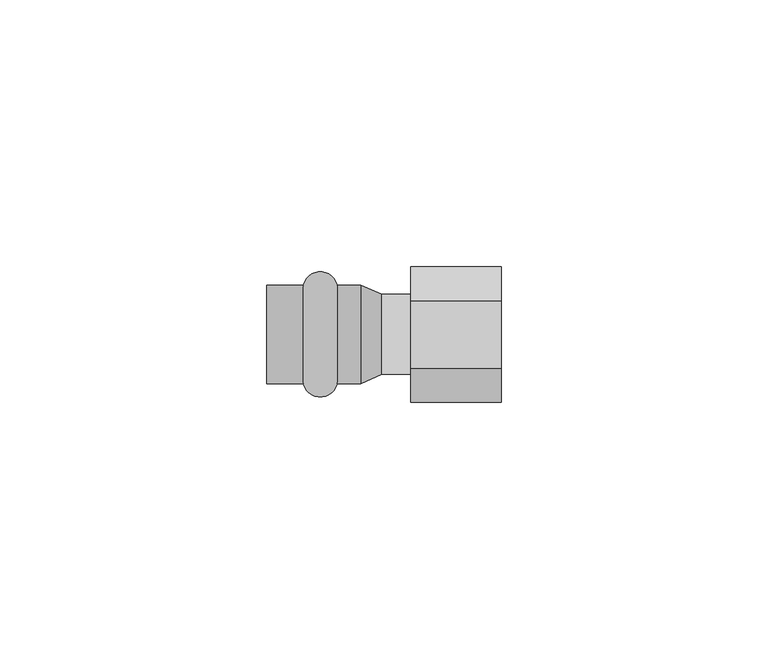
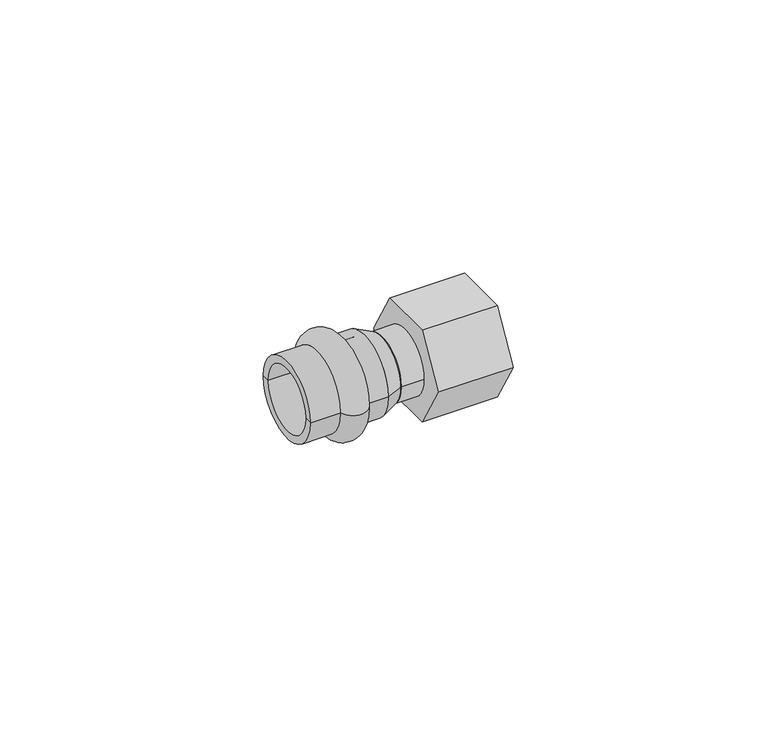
"""IFC4 building model written with IfcOpenShell, lengths in millimetres: pipe fitting geometry, VALTEC_VTi.908.I_Соединитель с накидной гайкой_Нержавеющая сталь : VTi.908.I."""

from ifc_helpers import new_model, si_unit, point, frame, origin, origin_2d, place, context, project, spatial, polyline, circle_curve, ellipse_curve, trimmed, segment, composite_curve, outline, extrude, source, transform, mapped, element, save
from ifc_brep_helpers import plane_surface, cylinder_surface, revolved_surface, advanced_brep


def pipe_fitting_578c5cc1(model_context):
    return source(origin(), model_context, "Body", "SolidModel", [
        advanced_brep(
        [(-28.6122777, -9.25, 0.0), (-28.6122777, 9.25, 0.0), (-22.2877223, 9.25, 0.0), (-22.2877223, -9.25, 0.0), (-35.5, -9.25, 0.0), (-35.5, 9.25, 0.0), (-35.5, -7.5, 0.0), (-35.5, 7.5, 0.0), (-17.9, -7.5, 0.0), (-17.9, 7.5, 0.0), (-17.9, -9.25, 0.0), (-17.9, 9.25, 0.0)],
        [
            (0, 1, circle_curve(frame((-28.6122777, 0.0, 0.0), z_axis=(1.0, 0.0, 0.0), x_axis=(0.0, 1.0, 0.0)), 9.25)),
            (1, 2, circle_curve(frame((-25.45, 8.5, 0.0), z_axis=(0.0, 0.0, -1.0), x_axis=(1.0, 0.0, 0.0)), 3.25)),
            (2, 3, circle_curve(frame((-22.2877223, 0.0, 0.0), z_axis=(-1.0, 0.0, 0.0), x_axis=(0.0, 1.0, 0.0)), 9.25)),
            (3, 0, circle_curve(frame((-25.45, -8.5, 0.0), z_axis=(0.0, 0.0, -1.0), x_axis=(1.0, 0.0, 0.0)), 3.25)),
            (1, 0, circle_curve(frame((-28.6122777, 0.0, 0.0), z_axis=(1.0, 0.0, 0.0), x_axis=(0.0, 1.0, 0.0)), 9.25)),
            (3, 2, circle_curve(frame((-22.2877223, 0.0, 0.0), z_axis=(-1.0, 0.0, 0.0), x_axis=(0.0, 1.0, 0.0)), 9.25)),
            (4, 5, circle_curve(frame((-35.5, 0.0, 0.0), z_axis=(1.0, 0.0, 0.0), x_axis=(0.0, 1.0, 0.0)), 9.25)),
            (5, 1),
            (0, 4),
            (5, 4, circle_curve(frame((-35.5, 0.0, 0.0), z_axis=(1.0, 0.0, 0.0), x_axis=(0.0, 1.0, 0.0)), 9.25)),
            (6, 7, circle_curve(frame((-35.5, 0.0, 0.0), z_axis=(1.0, 0.0, 0.0), x_axis=(0.0, 1.0, 0.0)), 7.5)),
            (7, 5),
            (4, 6),
            (7, 6, circle_curve(frame((-35.5, 0.0, 0.0), z_axis=(1.0, 0.0, 0.0), x_axis=(0.0, 1.0, 0.0)), 7.5)),
            (8, 9, circle_curve(frame((-17.9, 0.0, 0.0), z_axis=(1.0, 0.0, 0.0), x_axis=(0.0, 1.0, 0.0)), 7.5)),
            (9, 7),
            (6, 8),
            (9, 8, circle_curve(frame((-17.9, 0.0, 0.0), z_axis=(1.0, 0.0, 0.0), x_axis=(0.0, 1.0, 0.0)), 7.5)),
            (10, 11, circle_curve(frame((-17.9, 0.0, 0.0), z_axis=(1.0, 0.0, 0.0), x_axis=(0.0, 1.0, 0.0)), 9.25)),
            (11, 9),
            (8, 10),
            (11, 10, circle_curve(frame((-17.9, 0.0, 0.0), z_axis=(1.0, 0.0, 0.0), x_axis=(0.0, 1.0, 0.0)), 9.25)),
            (2, 11),
            (10, 3),
        ],
        [
            revolved_surface(trimmed(ellipse_curve(frame((-25.45, 8.5, 0.0), z_axis=(0.0, 0.0, 1.0), x_axis=(1.0, 0.0, 0.0)), 3.25, 3.25), [point((-22.2877223, 9.25, 0.0))], [point((-28.6122777, 9.25, 0.0))], True, "CARTESIAN"), (-39.0364426, 0.0, 0.0), (-1.0, 0.0, 0.0)),
            cylinder_surface(frame((-39.0364426, 0.0, 0.0), z_axis=(-1.0, 0.0, 0.0), x_axis=(0.0, 1.0, 0.0)), 9.25),
            plane_surface(frame((-35.5, 0.0, 0.0), z_axis=(-1.0, 0.0, 0.0), x_axis=(0.0, 1.0, 0.0))),
            revolved_surface(polyline([(-35.5, 7.5, 0.0), (-17.9, 7.5, 0.0)]), (-39.0364426, 0.0, 0.0), (-1.0, 0.0, 0.0)),
            plane_surface(frame((-17.9, 0.0, 0.0), z_axis=(1.0, 0.0, 0.0), x_axis=(0.0, 1.0, 0.0))),
        ],
        [
            (0, [[1, 2, 3, 4]]),
            (0, [[5, -4, 6, -2]]),
            (1, [[7, 8, -1, 9]]),
            (1, [[10, -9, -5, -8]]),
            (2, [[11, 12, -7, 13]]),
            (2, [[14, -13, -10, -12]]),
            (3, [[15, 16, -11, 17]]),
            (3, [[18, -17, -14, -16]]),
            (4, [[19, 20, -15, 21]]),
            (4, [[22, -21, -18, -20]]),
            (1, [[-3, 23, -19, 24]]),
            (1, [[-6, -24, -22, -23]]),
        ],
    ),
        extrude(outline(polyline([(-12.7017059, 0.0), (-6.350853, 11.0), (6.350853, 11.0), (12.7017059, 0.0), (6.350853, -11.0), (-6.350853, -11.0), (-12.7017059, 0.0)])), frame((-8.5, 0.0, 0.0), z_axis=(1.0, 0.0, 0.0), x_axis=(0.0, 1.0, 0.0)), (0.0, 0.0, 1.0), 17.0),
        extrude(outline(composite_curve([segment(trimmed(circle_curve(origin_2d(), 7.5), [point((-7.5, 0.0))], [point((7.5, 0.0))], False, "CARTESIAN"), True, "CONTINUOUS"), segment(trimmed(circle_curve(origin_2d(), 7.5), [point((7.5, 0.0))], [point((-7.5, 0.0))], False, "CARTESIAN"), True, "CONTINUOUS")], self_intersect=False)), frame((-13.9, 0.0, 0.0), z_axis=(1.0, 0.0, 0.0), x_axis=(0.0, 1.0, 0.0)), (0.0, 0.0, 1.0), 5.4),
        advanced_brep(
        [(-13.9, -7.5, 0.0), (-13.9, 7.5, 0.0), (-17.9, -9.25, 0.0), (-17.9, 9.25, 0.0)],
        [
            (0, 1, circle_curve(frame((-13.9, 0.0, 0.0), z_axis=(1.0, 0.0, 0.0), x_axis=(0.0, -1.0, 0.0)), 7.5)),
            (1, 0, circle_curve(frame((-13.9, 0.0, 0.0), z_axis=(1.0, 0.0, 0.0), x_axis=(0.0, 1.0, 0.0)), 7.5)),
            (2, 3, circle_curve(frame((-17.9, 0.0, 0.0), z_axis=(-1.0, 0.0, 0.0), x_axis=(0.0, 1.0, 0.0)), 9.25)),
            (3, 2, circle_curve(frame((-17.9, 0.0, 0.0), z_axis=(-1.0, 0.0, 0.0), x_axis=(0.0, -1.0, 0.0)), 9.25)),
            (3, 1),
            (0, 2),
        ],
        [
            plane_surface(frame((-13.9, 0.0, 0.0), z_axis=(1.0, 0.0, 0.0), x_axis=(0.0, 0.0, -1.0))),
            plane_surface(frame((-17.9, 0.0, 0.0), z_axis=(-1.0, 0.0, 0.0), x_axis=(0.0, 0.0, -1.0))),
            revolved_surface(polyline([(-13.9, -7.499999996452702, 0.0), (-17.9, -9.25, 0.0)]), (3.2428571, 0.0, 0.0), (-1.0, 0.0, 0.0)),
            revolved_surface(polyline([(-13.9, 7.499999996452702, 0.0), (-17.9, 9.25, 0.0)]), (3.2428571, 0.0, 0.0), (-1.0, 0.0, 0.0)),
        ],
        [
            (0, [[1, 2]]),
            (1, [[3, 4]]),
            (2, [[-4, 5, -1, 6]]),
            (3, [[-3, -6, -2, -5]]),
        ],
    ),
    ])


if __name__ == "__main__":
    model = new_model("IFC4")
    model_context = context("Model", 3, world=origin())
    ifc_project = project(units=[si_unit("LENGTHUNIT", "METRE", prefix="MILLI")], contexts=[model_context])
    site = spatial("IfcSite", under=ifc_project)
    building = spatial("IfcBuilding", under=site)
    placement = place(None, origin())
    pipe_fitting_shape = pipe_fitting_578c5cc1(model_context)
    element("IfcPipeFitting", 1, ObjectType="VALTEC_VTi.908.I_Соединитель с накидной гайкой_Нержавеющая сталь : VTi.908.I", at=placement, inside=building, context=model_context, shape_type="MappedRepresentation", body=[
        mapped(pipe_fitting_shape, transform((0.0, 0.0, 0.0), x_axis=(1.0, 0.0, 0.0), y_axis=(0.0, 1.0, 0.0), z_axis=(0.0, 0.0, 1.0))),
    ])
    save(model, "model.ifc")
